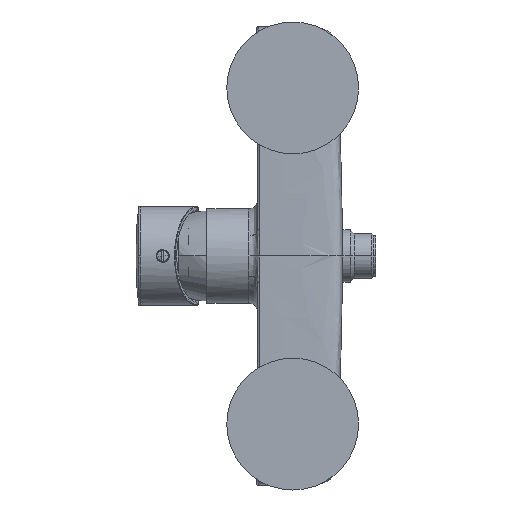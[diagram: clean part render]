
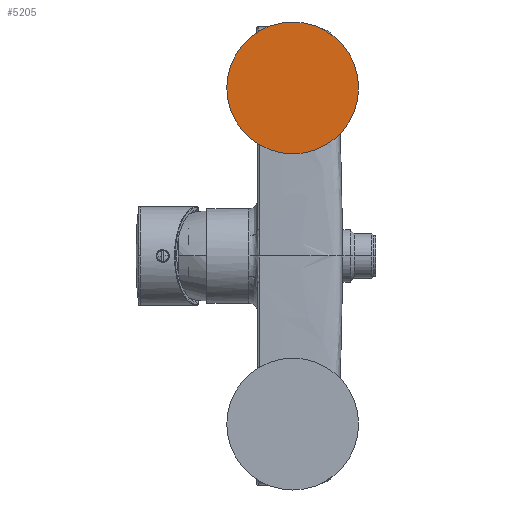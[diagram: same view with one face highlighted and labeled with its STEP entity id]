
A CAD part, left-side view. The second image highlights one B-rep face of the part: STEP entity #5205.
In plain terms, the highlighted planar face has unit normal (-1, 0, 0).
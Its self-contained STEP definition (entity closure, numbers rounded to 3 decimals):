
#131=CARTESIAN_POINT('',(-58.654,-39.1,76.5));
#132=DIRECTION('',(1.,0.,0.));
#133=DIRECTION('',(0.,-1.,0.));
#134=AXIS2_PLACEMENT_3D('',#131,#132,#133);
#136=CARTESIAN_POINT('',(-58.654,-39.1,76.5));
#137=DIRECTION('',(1.,0.,0.));
#138=DIRECTION('',(0.,1.,0.));
#139=AXIS2_PLACEMENT_3D('',#136,#137,#138);
#5000=CARTESIAN_POINT('',(-58.654,-69.1,76.5));
#5001=CARTESIAN_POINT('',(-58.654,-9.1,76.5));
#5002=VERTEX_POINT('',#5000);
#5003=VERTEX_POINT('',#5001);
#5196=CARTESIAN_POINT('',(-58.654,-24.35,76.5));
#5197=DIRECTION('',(-1.,0.,0.));
#5198=DIRECTION('',(0.,1.,0.));
#5199=AXIS2_PLACEMENT_3D('',#5196,#5197,#5198);
#5200=PLANE('',#5199);
#5201=ORIENTED_EDGE('',*,*,#5163,.T.);
#5202=ORIENTED_EDGE('',*,*,#5178,.T.);
#5203=EDGE_LOOP('',(#5201,#5202));
#5204=FACE_OUTER_BOUND('',#5203,.F.);
#5205=ADVANCED_FACE('',(#5204),#5200,.T.);
#135=CIRCLE('',#134,30.);
#140=CIRCLE('',#139,30.);
#5163=EDGE_CURVE('',#5002,#5003,#135,.T.);
#5178=EDGE_CURVE('',#5003,#5002,#140,.T.);
